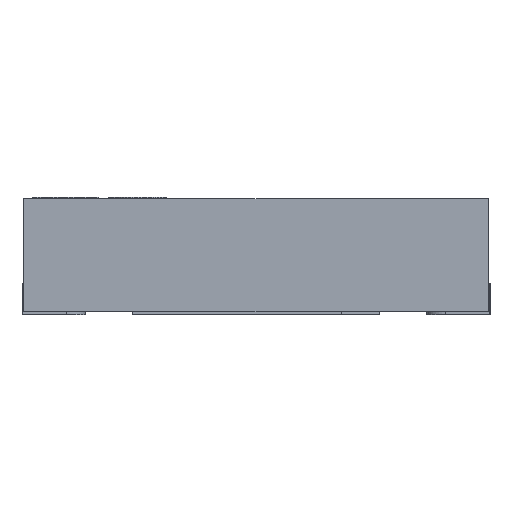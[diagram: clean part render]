
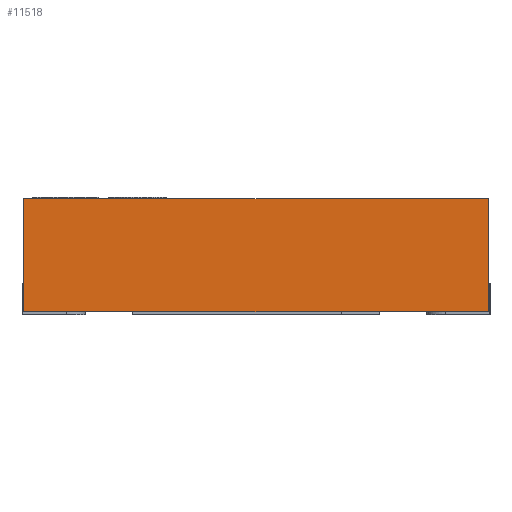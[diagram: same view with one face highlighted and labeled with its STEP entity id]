
A CAD part, left-side view. The second image highlights one B-rep face of the part: STEP entity #11518.
In plain terms, the highlighted planar face has unit normal (-1, 0, 0).
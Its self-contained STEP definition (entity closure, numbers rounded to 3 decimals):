
#169 = CARTESIAN_POINT ( 'NONE',  ( -1., -1.5, 0. ) ) ;
#1406 = VERTEX_POINT ( 'NONE', #2184 ) ;
#2184 = CARTESIAN_POINT ( 'NONE',  ( -1., -1.5, 0.73 ) ) ;
#2507 = ORIENTED_EDGE ( 'NONE', *, *, #13588, .T. ) ;
#2539 = VECTOR ( 'NONE', #15714, 1000. ) ;
#2859 = LINE ( 'NONE', #13390, #13857 ) ;
#2945 = DIRECTION ( 'NONE',  ( 0., -1., 0. ) ) ;
#3473 = LINE ( 'NONE', #4884, #2539 ) ;
#3556 = ORIENTED_EDGE ( 'NONE', *, *, #14915, .T. ) ;
#3841 = ORIENTED_EDGE ( 'NONE', *, *, #6765, .F. ) ;
#4511 = FACE_OUTER_BOUND ( 'NONE', #5977, .T. ) ;
#4884 = CARTESIAN_POINT ( 'NONE',  ( -1., 1.5, 0.73 ) ) ;
#5182 = VERTEX_POINT ( 'NONE', #169 ) ;
#5562 = VECTOR ( 'NONE', #16833, 1000. ) ;
#5977 = EDGE_LOOP ( 'NONE', ( #3556, #3841, #12068, #2507 ) ) ;
#6349 = LINE ( 'NONE', #8902, #5562 ) ;
#6514 = LINE ( 'NONE', #10637, #12678 ) ;
#6728 = CARTESIAN_POINT ( 'NONE',  ( -1., 1.5, 0. ) ) ;
#6765 = EDGE_CURVE ( 'NONE', #1406, #5182, #6514, .T. ) ;
#8654 = AXIS2_PLACEMENT_3D ( 'NONE', #14995, #11103, #9780 ) ;
#8902 = CARTESIAN_POINT ( 'NONE',  ( -1., 1.5, 0. ) ) ;
#9272 = EDGE_CURVE ( 'NONE', #12693, #1406, #2859, .T. ) ;
#9578 = CARTESIAN_POINT ( 'NONE',  ( -1., 1.5, 0.73 ) ) ;
#9780 = DIRECTION ( 'NONE',  ( 0., 1., 0. ) ) ;
#10637 = CARTESIAN_POINT ( 'NONE',  ( -1., -1.5, 0.73 ) ) ;
#11103 = DIRECTION ( 'NONE',  ( 1., 0., 0. ) ) ;
#11518 = ADVANCED_FACE ( 'NONE', ( #4511 ), #12659, .F. ) ;
#12068 = ORIENTED_EDGE ( 'NONE', *, *, #9272, .F. ) ;
#12659 = PLANE ( 'NONE',  #8654 ) ;
#12678 = VECTOR ( 'NONE', #17089, 1000. ) ;
#12693 = VERTEX_POINT ( 'NONE', #9578 ) ;
#13390 = CARTESIAN_POINT ( 'NONE',  ( -1., 1.5, 0.73 ) ) ;
#13588 = EDGE_CURVE ( 'NONE', #12693, #16919, #3473, .T. ) ;
#13857 = VECTOR ( 'NONE', #2945, 1000. ) ;
#14915 = EDGE_CURVE ( 'NONE', #16919, #5182, #6349, .T. ) ;
#14995 = CARTESIAN_POINT ( 'NONE',  ( -1., 1.5, 0.73 ) ) ;
#15714 = DIRECTION ( 'NONE',  ( 0., 0., -1. ) ) ;
#16833 = DIRECTION ( 'NONE',  ( 0., -1., 0. ) ) ;
#16919 = VERTEX_POINT ( 'NONE', #6728 ) ;
#17089 = DIRECTION ( 'NONE',  ( 0., 0., -1. ) ) ;
